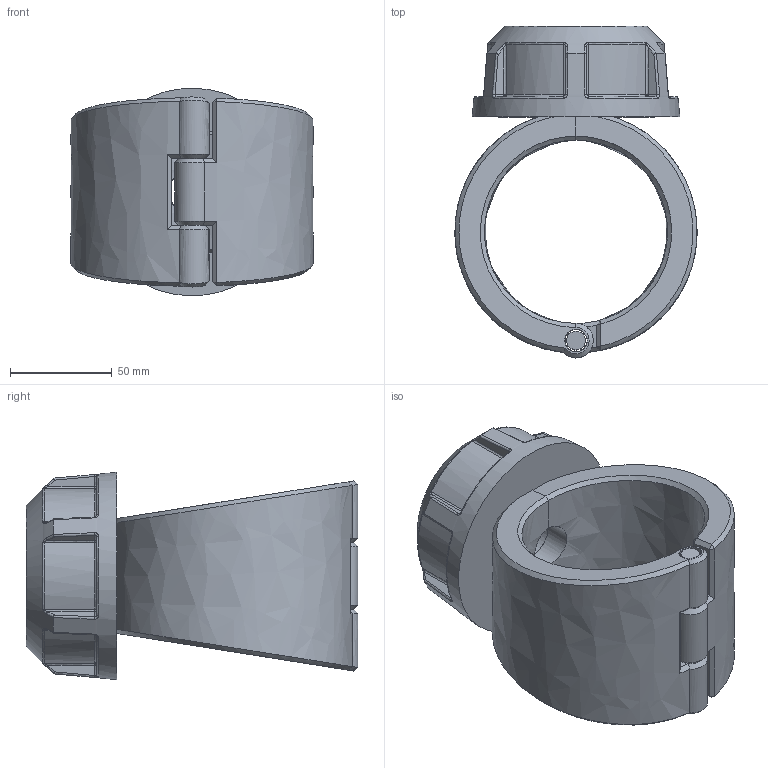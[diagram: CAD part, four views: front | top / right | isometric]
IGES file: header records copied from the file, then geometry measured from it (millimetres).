
Global section: file name: 163000090015; native system: Autodesk Inventor 2019; preprocessor: unknown; author: comp2; date: 20220203.114730; units: millimetre
Bounding box: 119 x 163 x 101.9 mm (x, y, z)
Volume: 563137.5 mm3; surface area: 98053.8 mm2
Topology: 4 solids, 4 shells, 203 faces, 486 edges, 293 vertices
Faces by surface type: bspline 203
